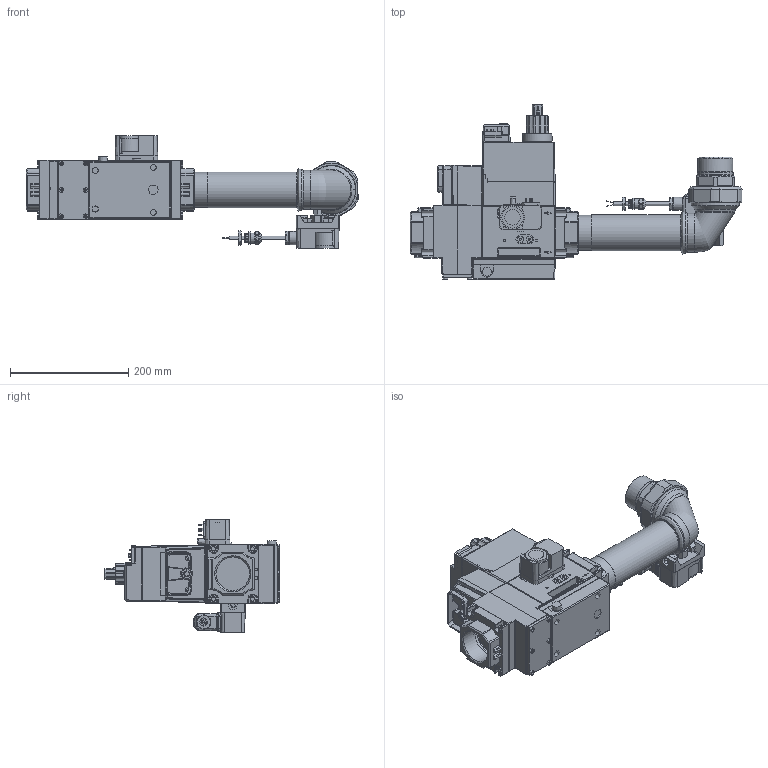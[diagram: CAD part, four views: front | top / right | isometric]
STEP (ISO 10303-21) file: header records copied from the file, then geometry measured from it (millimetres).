
FILE_DESCRIPTION (( 'STEP AP214' ), '1' );
FILE_NAME ('19990750.STEP', '2025-02-14T07:07:55', ( '' ), ( '' ), 'SwSTEP 2.0', 'SolidWorks 2021', '' );
FILE_SCHEMA (( 'AUTOMOTIVE_DESIGN' ));
Length unit declared in the file: millimetre
Products named in the file (1): 19990750
Bounding box: 560.7 x 296 x 189.75 mm (x, y, z)
Volume: 5167097.8 mm3; surface area: 555729.2 mm2
Topology: 18 solids, 18 shells, 2903 faces, 7281 edges, 4540 vertices
Faces by surface type: plane 1153, cylinder 835, bspline 694, torus 118, cone 70, sphere 33
Full cylindrical faces by diameter (mm): 0.7 x2, 1 x2, 1.5 x4, 2 x2, 2.5 x8, 3.7 x3, 4 x5, 4.5 x1, 4.8 x1, 6.2 x1, 6.647 x8, 6.75 x2, 6.917 x8, 7 x3, 8 x4, 8.08 x1, 8.5 x6, 8.57 x1, 8.8 x1, 9 x2, 9.139 x1, 9.73 x1, 10 x3, 10.5 x6, 10.6 x1, 10.96 x2, 11 x7, 12.5 x2, 13.16 x1, 14 x1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
Entity records: 174026 total; most frequent: CARTESIAN_POINT 80676, ORIENTED_EDGE 13764, DIRECTION 10286, EDGE_CURVE 6882, VERTEX_POINT 4445, AXIS2_PLACEMENT_3D 3512, EDGE_LOOP 3411, LINE 3262
